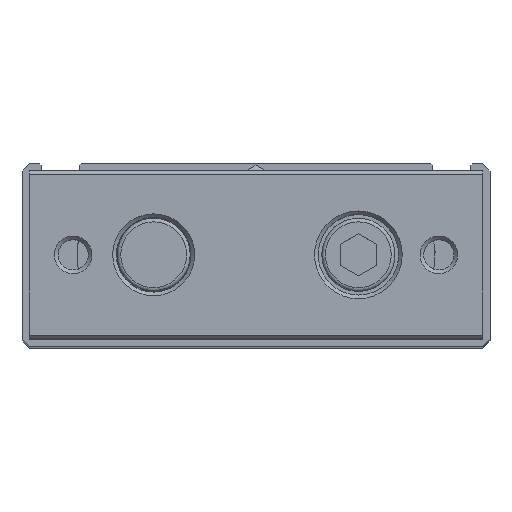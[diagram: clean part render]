
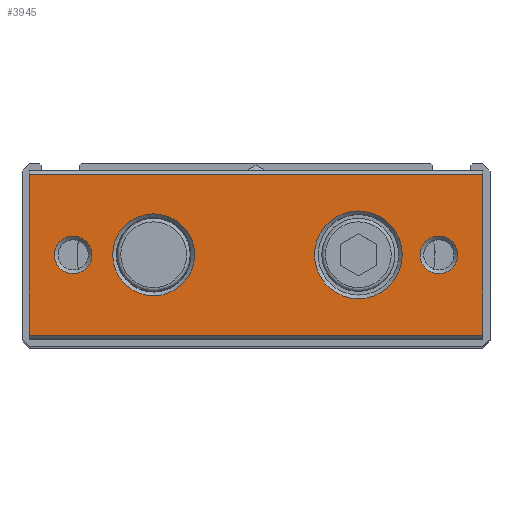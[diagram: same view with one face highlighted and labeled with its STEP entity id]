
A CAD part, top view. The second image highlights one B-rep face of the part: STEP entity #3945.
In plain terms, the highlighted planar face has unit normal (0, 0, 1).
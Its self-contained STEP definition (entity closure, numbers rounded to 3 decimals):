
#3393=CARTESIAN_POINT('',(-31.0,-11.,164.0));
#3394=VERTEX_POINT('',#3393);
#3401=CARTESIAN_POINT('',(-31.0,11.,164.0));
#3402=VERTEX_POINT('',#3401);
#3403=CARTESIAN_POINT('',(-31.0,11.,164.0));
#3404=DIRECTION('',(0.0,-1.0,0.0));
#3405=VECTOR('',#3404,22.);
#3406=LINE('',#3403,#3405);
#3407=EDGE_CURVE('',#3402,#3394,#3406,.T.);
#3521=CARTESIAN_POINT('',(31.0,-11.,164.0));
#3522=VERTEX_POINT('',#3521);
#3529=CARTESIAN_POINT('',(31.0,-11.,164.0));
#3530=DIRECTION('',(-1.0,0.0,0.0));
#3531=VECTOR('',#3530,62.0);
#3532=LINE('',#3529,#3531);
#3533=EDGE_CURVE('',#3522,#3394,#3532,.T.);
#3600=CARTESIAN_POINT('',(31.0,11.,164.0));
#3601=VERTEX_POINT('',#3600);
#3608=CARTESIAN_POINT('',(31.0,-11.,164.0));
#3609=DIRECTION('',(0.0,1.0,0.0));
#3610=VECTOR('',#3609,22.);
#3611=LINE('',#3608,#3610);
#3612=EDGE_CURVE('',#3522,#3601,#3611,.T.);
#3881=CARTESIAN_POINT('',(20.0,0.,164.0));
#3882=VERTEX_POINT('',#3881);
#3883=CARTESIAN_POINT('',(14.0,0.,164.0));
#3884=DIRECTION('',(0.0,0.0,1.0));
#3885=DIRECTION('',(-1.0,0.0,0.0));
#3886=AXIS2_PLACEMENT_3D('',#3883,#3884,#3885);
#3887=CIRCLE('',#3886,6.);
#3888=EDGE_CURVE('',#3882,#3882,#3887,.T.);
#3893=CARTESIAN_POINT('',(0.0,-11.5,164.0));
#3894=DIRECTION('',(0.0,0.0,1.0));
#3895=DIRECTION('',(1.0,0.0,0.0));
#3896=AXIS2_PLACEMENT_3D('',#3893,#3894,#3895);
#3897=PLANE('',#3896);
#3898=ORIENTED_EDGE('',*,*,#3533,.F.);
#3899=ORIENTED_EDGE('',*,*,#3612,.T.);
#3900=CARTESIAN_POINT('',(-31.0,11.,164.0));
#3901=DIRECTION('',(1.0,0.0,0.0));
#3902=VECTOR('',#3901,62.0);
#3903=LINE('',#3900,#3902);
#3904=EDGE_CURVE('',#3402,#3601,#3903,.T.);
#3905=ORIENTED_EDGE('',*,*,#3904,.F.);
#3906=ORIENTED_EDGE('',*,*,#3407,.T.);
#3907=EDGE_LOOP('',(#3898,#3899,#3905,#3906));
#3908=FACE_OUTER_BOUND('',#3907,.T.);
#3909=CARTESIAN_POINT('',(-8.4,0.,164.0));
#3910=VERTEX_POINT('',#3909);
#3911=CARTESIAN_POINT('',(-14.,0.,164.0));
#3912=DIRECTION('',(0.0,0.0,1.0));
#3913=DIRECTION('',(-1.0,0.0,0.0));
#3914=AXIS2_PLACEMENT_3D('',#3911,#3912,#3913);
#3915=CIRCLE('',#3914,5.6);
#3916=EDGE_CURVE('',#3910,#3910,#3915,.T.);
#3917=ORIENTED_EDGE('',*,*,#3916,.F.);
#3918=EDGE_LOOP('',(#3917));
#3919=FACE_BOUND('',#3918,.T.);
#3920=CARTESIAN_POINT('',(27.567,0.,164.0));
#3921=VERTEX_POINT('',#3920);
#3922=CARTESIAN_POINT('',(25.,0.,164.0));
#3923=DIRECTION('',(0.0,0.0,1.0));
#3924=DIRECTION('',(-1.0,0.0,0.0));
#3925=AXIS2_PLACEMENT_3D('',#3922,#3923,#3924);
#3926=CIRCLE('',#3925,2.567);
#3927=EDGE_CURVE('',#3921,#3921,#3926,.T.);
#3928=ORIENTED_EDGE('',*,*,#3927,.F.);
#3929=EDGE_LOOP('',(#3928));
#3930=FACE_BOUND('',#3929,.T.);
#3931=CARTESIAN_POINT('',(-22.433,0.,164.0));
#3932=VERTEX_POINT('',#3931);
#3933=CARTESIAN_POINT('',(-25.0,0.,164.0));
#3934=DIRECTION('',(0.0,0.0,1.0));
#3935=DIRECTION('',(-1.0,0.0,0.0));
#3936=AXIS2_PLACEMENT_3D('',#3933,#3934,#3935);
#3937=CIRCLE('',#3936,2.567);
#3938=EDGE_CURVE('',#3932,#3932,#3937,.T.);
#3939=ORIENTED_EDGE('',*,*,#3938,.F.);
#3940=EDGE_LOOP('',(#3939));
#3941=FACE_BOUND('',#3940,.T.);
#3942=ORIENTED_EDGE('',*,*,#3888,.F.);
#3943=EDGE_LOOP('',(#3942));
#3944=FACE_BOUND('',#3943,.T.);
#3945=ADVANCED_FACE('',(#3908,#3919,#3930,#3941,#3944),#3897,.T.);
